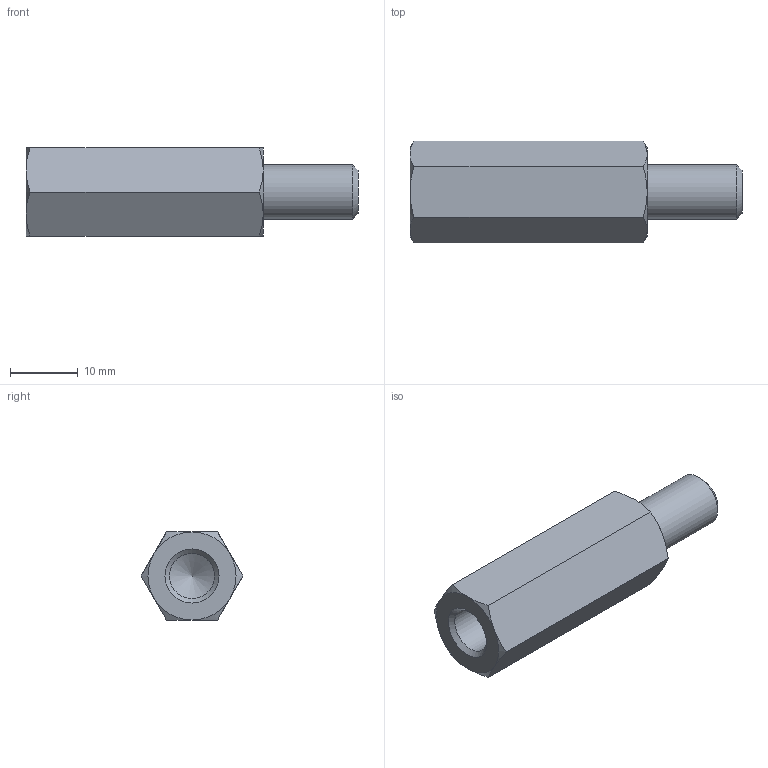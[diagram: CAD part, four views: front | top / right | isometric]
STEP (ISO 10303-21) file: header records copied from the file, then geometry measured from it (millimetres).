
FILE_DESCRIPTION( ( 'STEP AP203' ), '1' );
FILE_NAME( 'C:/Temp/Ganter_Step_05_03_2020/data/3_2/gn6220/gn6220_st/Spacer GN 6220-ST-M8-35-B.stp', '2020-03-13T05:42:50', ( 'License CC BY-ND 4.0' ), ( 'CADENAS' ), ' ', 'PARTsolutions', ' ' );
FILE_SCHEMA( ( 'CONFIG_CONTROL_DESIGN' ) );
Length unit declared in the file: millimetre
Products named in the file (1): _Spacer GN 6220-ST-M8-35-B
Bounding box: 49 x 15.01 x 13 mm (x, y, z)
Volume: 5085.4 mm3; surface area: 2614.9 mm2
Topology: 1 solids, 1 shells, 26 faces, 55 edges, 32 vertices
Faces by surface type: cone 15, plane 9, cylinder 2
Full cylindrical faces by diameter (mm): 6.647 x1, 8 x1
Entity records: 778 total; most frequent: CARTESIAN_POINT 242, DIRECTION 96, ORIENTED_EDGE 96, EDGE_CURVE 48, AXIS2_PLACEMENT_3D 45, EDGE_LOOP 32, VERTEX_POINT 31, FACE_OUTER_BOUND 28
